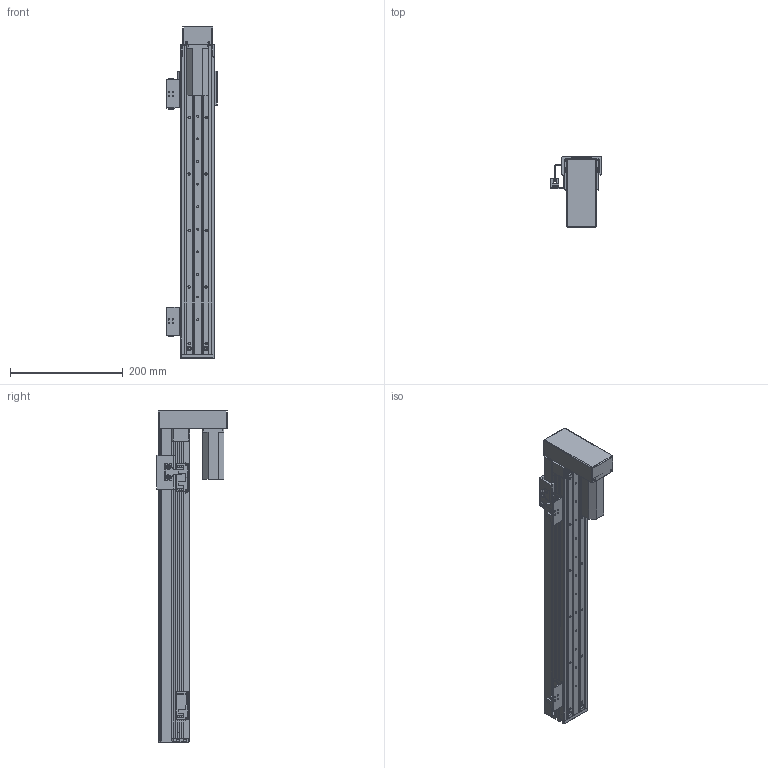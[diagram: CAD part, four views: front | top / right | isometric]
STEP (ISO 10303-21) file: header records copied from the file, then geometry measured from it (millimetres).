
FILE_DESCRIPTION (( 'STEP AP203' ), '1' );
FILE_NAME ('RY60FB-L1210-300-BK.SLDASM_400.step', '2021-02-23T00:55:24', ( '盈信电脑' ), ( '东莞市道滘镇水果街19号' ), 'SwSTEP 2.0', 'SolidWorks 2012', '' );
FILE_SCHEMA (( 'CONFIG_CONTROL_DESIGN' ));
Length unit declared in the file: millimetre
Products named in the file (15): RY60FB-L1210-300-BK.SLDASM_400; RY60FB-蛌殏萇儂欶; 覜茼ん674; RY60FB-674嫖萇耀輸; RY60FB-狟殏萇儂假蚾啣; RY80俋离覜茼え; RY60FB转折电机端支撑座; RY60FB綴裔啣; RY60FB-感应器674光电安装座; 侂狟100W; 滅袉蝶18-10; RY60FB-蛌殏奻裔-300-BK_400; RY60FB-蛌殏菁釱-300-BK_400; RY60FB-臏賑輸
Assembly tree (20 placements, depth 3):
  RY60FB-L1210-300-BK.SLDASM_400
    RY60FB-蛌殏菁釱-300-BK_400
    RY60FB-臏賑輸
    滅袉蝶18-10  x4
    RY60FB-蛌殏奻裔-300-BK_400
    侂狟100W
    RY60FB綴裔啣
    RY60FB转折电机端支撑座
    RY80俋离覜茼え
    RY60FB-674嫖萇耀輸
      RY60FB-感应器674光电安装座
      覜茼ん674  x2
    RY60FB-674嫖萇耀輸
      RY60FB-感应器674光电安装座
      覜茼ん674
    RY60FB-狟殏萇儂假蚾啣
    RY60FB-蛌殏萇儂欶
Bounding box: 90 x 125.45 x 588 mm (x, y, z)
Volume: 819702.6 mm3; surface area: 449383.1 mm2
Topology: 18 solids, 18 shells, 1089 faces, 2968 edges, 1888 vertices
Faces by surface type: plane 529, cylinder 455, cone 97, bspline 8
Entity records: 31277 total; most frequent: CARTESIAN_POINT 6093, DIRECTION 4944, ORIENTED_EDGE 4832, EDGE_CURVE 2416, AXIS2_PLACEMENT_3D 1727, VERTEX_POINT 1564, VECTOR 1490, LINE 1490
